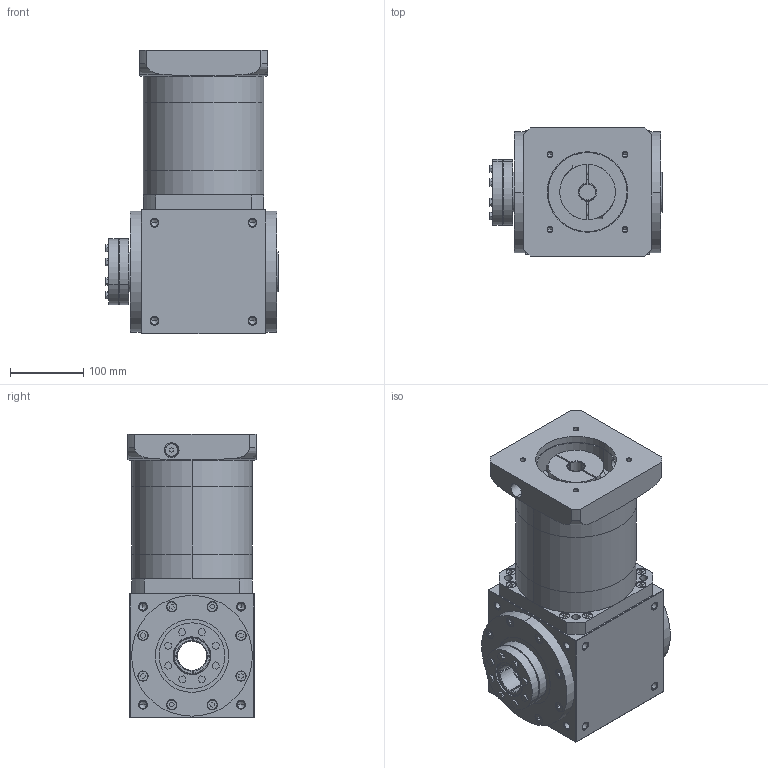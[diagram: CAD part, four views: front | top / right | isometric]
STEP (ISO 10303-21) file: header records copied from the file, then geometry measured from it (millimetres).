
FILE_DESCRIPTION (( 'STEP AP203' ), '1' );
FILE_NAME ('AT170-FC1-L3-22-110-145.STEP', '2026-01-14T09:10:18', ( 'Windows User' ), ( 'P R C' ), 'SwSTEP 2.0', 'SolidWorks 2016', '' );
FILE_SCHEMA (( 'CONFIG_CONTROL_DESIGN' ));
Length unit declared in the file: millimetre
Products named in the file (7): AT170蛌褒眊极-謂怀堤-FC1; AT170-蛌倰怀堤楊擘; AT170内齿圈108-2; AT170.输入法兰-D-24-60-110-M8-145; 输入轴套-24-22; AT170C-坶踡攫; AT170-FC1-L3-22-110-145
Assembly tree (6 placements, depth 2):
  AT170-FC1-L3-22-110-145
    AT170蛌褒眊极-謂怀堤-FC1
    AT170-蛌倰怀堤楊擘
    AT170内齿圈108-2
    AT170.输入法兰-D-24-60-110-M8-145
    输入轴套-24-22
    AT170C-坶踡攫
Bounding box: 235.5 x 175 x 388 mm (x, y, z)
Volume: 8351411.7 mm3; surface area: 749159 mm2
Topology: 6 solids, 22 shells, 1701 faces, 4302 edges, 2707 vertices
Faces by surface type: plane 866, cylinder 433, cone 277, bspline 125
Entity records: 58892 total; most frequent: CARTESIAN_POINT 18426, ORIENTED_EDGE 8364, DIRECTION 7828, EDGE_CURVE 4182, VECTOR 2718, LINE 2718, VERTEX_POINT 2707, AXIS2_PLACEMENT_3D 2555
